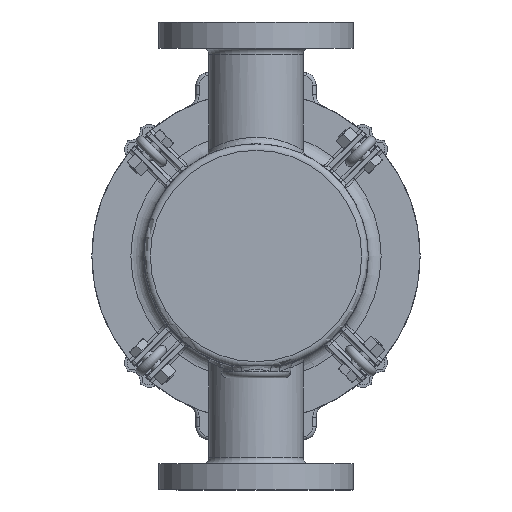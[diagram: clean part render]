
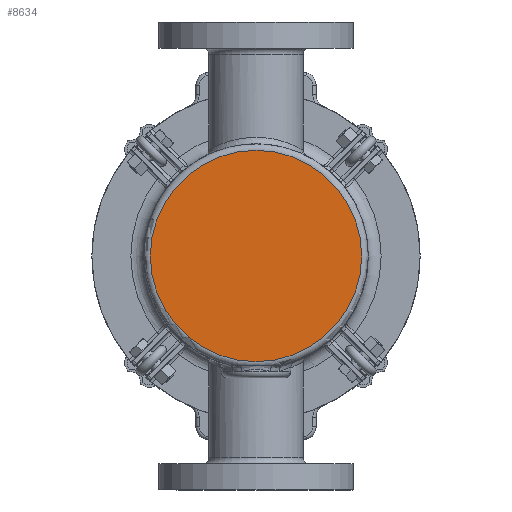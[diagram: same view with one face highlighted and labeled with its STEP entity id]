
A CAD part, front view. The second image highlights one B-rep face of the part: STEP entity #8634.
In plain terms, the highlighted planar face has unit normal (0, -1, 0).
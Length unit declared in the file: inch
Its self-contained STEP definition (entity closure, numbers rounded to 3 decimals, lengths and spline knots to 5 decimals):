
#1147=PLANE('',#9231);
#1886=FACE_OUTER_BOUND('',#2455,.T.);
#2455=EDGE_LOOP('',(#5818));
#3167=CIRCLE('',#9227,4.0625);
#3755=VERTEX_POINT('',#13574);
#4551=EDGE_CURVE('',#3755,#3755,#3167,.T.);
#5818=ORIENTED_EDGE('',*,*,#4551,.F.);
#8634=ADVANCED_FACE('',(#1886),#1147,.F.);
#9227=AXIS2_PLACEMENT_3D('',#13575,#10432,#10433);
#9231=AXIS2_PLACEMENT_3D('',#13580,#10440,#10441);
#10432=DIRECTION('center_axis',(0.,1.,0.));
#10433=DIRECTION('ref_axis',(1.,0.,0.));
#10440=DIRECTION('center_axis',(0.,1.,0.));
#10441=DIRECTION('ref_axis',(0.,0.,1.));
#13574=CARTESIAN_POINT('',(-4.0625,0.,0.));
#13575=CARTESIAN_POINT('Origin',(0.,0.,0.));
#13580=CARTESIAN_POINT('Origin',(0.,0.,0.));
